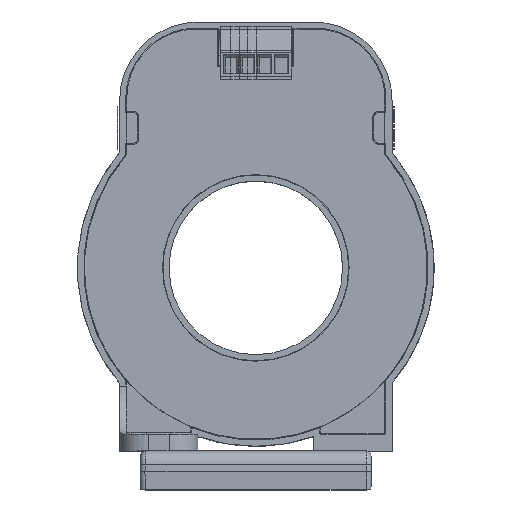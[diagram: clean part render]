
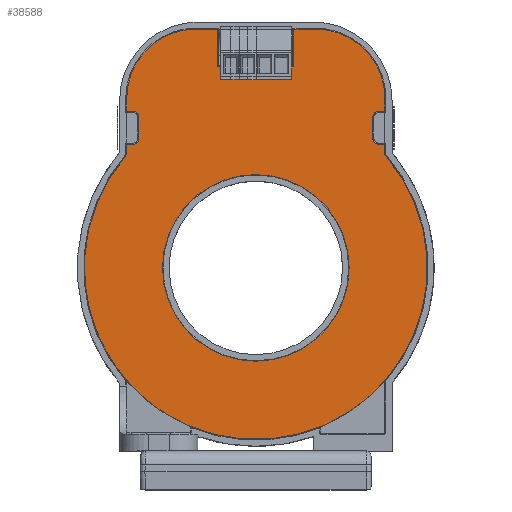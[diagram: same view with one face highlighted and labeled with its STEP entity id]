
A CAD part, top view. The second image highlights one B-rep face of the part: STEP entity #38588.
In plain terms, the highlighted planar face has unit normal (0, 0, 1).
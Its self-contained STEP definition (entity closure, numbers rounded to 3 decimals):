
#187=FACE_BOUND('',#5558,.T.);
#1820=PLANE('',#41157);
#3593=FACE_OUTER_BOUND('',#5557,.T.);
#5557=EDGE_LOOP('',(#33219,#33220,#33221,#33222,#33223,#33224,#33225,#33226,
#33227,#33228,#33229,#33230,#33231,#33232,#33233,#33234,#33235,#33236,#33237,
#33238,#33239,#33240));
#5558=EDGE_LOOP('',(#33241));
#9673=LINE('',#61446,#14037);
#9679=LINE('',#61462,#14043);
#9683=LINE('',#61474,#14047);
#9687=LINE('',#61482,#14051);
#9691=LINE('',#61502,#14055);
#9694=LINE('',#61508,#14058);
#9699=LINE('',#61522,#14063);
#9703=LINE('',#61534,#14067);
#9707=LINE('',#61542,#14071);
#9711=LINE('',#61554,#14075);
#9714=LINE('',#61560,#14078);
#9718=LINE('',#61568,#14082);
#9721=LINE('',#61574,#14085);
#9725=LINE('',#61582,#14089);
#9729=LINE('',#61593,#14093);
#14037=VECTOR('',#49900,10.);
#14043=VECTOR('',#49914,10.);
#14047=VECTOR('',#49926,10.);
#14051=VECTOR('',#49932,10.);
#14055=VECTOR('',#49952,10.);
#14058=VECTOR('',#49957,10.);
#14063=VECTOR('',#49970,10.);
#14067=VECTOR('',#49982,10.);
#14071=VECTOR('',#49988,10.);
#14075=VECTOR('',#50000,10.);
#14078=VECTOR('',#50005,10.);
#14082=VECTOR('',#50011,10.);
#14085=VECTOR('',#50016,10.);
#14089=VECTOR('',#50022,10.);
#14093=VECTOR('',#50034,10.);
#15145=CIRCLE('',#41115,19.35);
#15147=CIRCLE('',#41119,1.225);
#15149=CIRCLE('',#41123,1.225);
#15151=CIRCLE('',#41128,35.6);
#15157=CIRCLE('',#41137,1.225);
#15159=CIRCLE('',#41141,1.225);
#15161=CIRCLE('',#41146,14.398);
#15163=CIRCLE('',#41154,14.398);
#18326=VERTEX_POINT('',#61438);
#18328=VERTEX_POINT('',#61444);
#18329=VERTEX_POINT('',#61445);
#18333=VERTEX_POINT('',#61455);
#18335=VERTEX_POINT('',#61461);
#18337=VERTEX_POINT('',#61467);
#18339=VERTEX_POINT('',#61473);
#18342=VERTEX_POINT('',#61481);
#18344=VERTEX_POINT('',#61487);
#18350=VERTEX_POINT('',#61501);
#18352=VERTEX_POINT('',#61507);
#18355=VERTEX_POINT('',#61515);
#18357=VERTEX_POINT('',#61521);
#18359=VERTEX_POINT('',#61527);
#18361=VERTEX_POINT('',#61533);
#18364=VERTEX_POINT('',#61541);
#18366=VERTEX_POINT('',#61547);
#18368=VERTEX_POINT('',#61553);
#18370=VERTEX_POINT('',#61559);
#18373=VERTEX_POINT('',#61567);
#18375=VERTEX_POINT('',#61573);
#18378=VERTEX_POINT('',#61581);
#18380=VERTEX_POINT('',#61587);
#23387=EDGE_CURVE('',#18326,#18326,#15145,.T.);
#23390=EDGE_CURVE('',#18328,#18329,#9673,.T.);
#23395=EDGE_CURVE('',#18329,#18333,#15147,.T.);
#23398=EDGE_CURVE('',#18333,#18335,#9679,.T.);
#23401=EDGE_CURVE('',#18335,#18337,#15149,.T.);
#23404=EDGE_CURVE('',#18337,#18339,#9683,.T.);
#23408=EDGE_CURVE('',#18339,#18342,#9687,.T.);
#23411=EDGE_CURVE('',#18342,#18344,#15151,.T.);
#23418=EDGE_CURVE('',#18344,#18350,#9691,.T.);
#23421=EDGE_CURVE('',#18350,#18352,#9694,.T.);
#23425=EDGE_CURVE('',#18352,#18355,#15157,.T.);
#23428=EDGE_CURVE('',#18355,#18357,#9699,.T.);
#23431=EDGE_CURVE('',#18357,#18359,#15159,.T.);
#23434=EDGE_CURVE('',#18359,#18361,#9703,.T.);
#23438=EDGE_CURVE('',#18361,#18364,#9707,.T.);
#23441=EDGE_CURVE('',#18364,#18366,#15161,.T.);
#23444=EDGE_CURVE('',#18366,#18368,#9711,.T.);
#23447=EDGE_CURVE('',#18368,#18370,#9714,.T.);
#23451=EDGE_CURVE('',#18370,#18373,#9718,.T.);
#23454=EDGE_CURVE('',#18373,#18375,#9721,.T.);
#23458=EDGE_CURVE('',#18375,#18378,#9725,.T.);
#23461=EDGE_CURVE('',#18378,#18380,#15163,.T.);
#23464=EDGE_CURVE('',#18380,#18328,#9729,.T.);
#33219=ORIENTED_EDGE('',*,*,#23464,.T.);
#33220=ORIENTED_EDGE('',*,*,#23390,.T.);
#33221=ORIENTED_EDGE('',*,*,#23395,.T.);
#33222=ORIENTED_EDGE('',*,*,#23398,.T.);
#33223=ORIENTED_EDGE('',*,*,#23401,.T.);
#33224=ORIENTED_EDGE('',*,*,#23404,.T.);
#33225=ORIENTED_EDGE('',*,*,#23408,.T.);
#33226=ORIENTED_EDGE('',*,*,#23411,.T.);
#33227=ORIENTED_EDGE('',*,*,#23418,.T.);
#33228=ORIENTED_EDGE('',*,*,#23421,.T.);
#33229=ORIENTED_EDGE('',*,*,#23425,.T.);
#33230=ORIENTED_EDGE('',*,*,#23428,.T.);
#33231=ORIENTED_EDGE('',*,*,#23431,.T.);
#33232=ORIENTED_EDGE('',*,*,#23434,.T.);
#33233=ORIENTED_EDGE('',*,*,#23438,.T.);
#33234=ORIENTED_EDGE('',*,*,#23441,.T.);
#33235=ORIENTED_EDGE('',*,*,#23444,.T.);
#33236=ORIENTED_EDGE('',*,*,#23447,.T.);
#33237=ORIENTED_EDGE('',*,*,#23451,.T.);
#33238=ORIENTED_EDGE('',*,*,#23454,.T.);
#33239=ORIENTED_EDGE('',*,*,#23458,.T.);
#33240=ORIENTED_EDGE('',*,*,#23461,.T.);
#33241=ORIENTED_EDGE('',*,*,#23387,.T.);
#38588=ADVANCED_FACE('',(#3593,#187),#1820,.F.);
#41115=AXIS2_PLACEMENT_3D('',#61439,#49893,#49894);
#41119=AXIS2_PLACEMENT_3D('',#61456,#49907,#49908);
#41123=AXIS2_PLACEMENT_3D('',#61468,#49919,#49920);
#41128=AXIS2_PLACEMENT_3D('',#61488,#49937,#49938);
#41137=AXIS2_PLACEMENT_3D('',#61516,#49963,#49964);
#41141=AXIS2_PLACEMENT_3D('',#61528,#49975,#49976);
#41146=AXIS2_PLACEMENT_3D('',#61548,#49993,#49994);
#41154=AXIS2_PLACEMENT_3D('',#61588,#50027,#50028);
#41157=AXIS2_PLACEMENT_3D('',#61595,#50036,#50037);
#49893=DIRECTION('center_axis',(0.,0.,
-1.));
#49894=DIRECTION('ref_axis',(1.,0.,0.));
#49900=DIRECTION('',(1.,0.,0.));
#49907=DIRECTION('center_axis',(0.,0.,
-1.));
#49908=DIRECTION('ref_axis',(0.2,0.98,0.));
#49914=DIRECTION('',(0.,-1.,0.));
#49919=DIRECTION('center_axis',(0.,0.,
-1.));
#49920=DIRECTION('ref_axis',(0.98,-0.2,0.));
#49926=DIRECTION('',(-1.,0.,0.));
#49932=DIRECTION('',(0.,-1.,0.));
#49937=DIRECTION('center_axis',(0.,0.,
1.));
#49938=DIRECTION('ref_axis',(-0.752,-0.659,0.));
#49952=DIRECTION('',(0.,1.,0.));
#49957=DIRECTION('',(-1.,0.,0.));
#49963=DIRECTION('center_axis',(0.,0.,
-1.));
#49964=DIRECTION('ref_axis',(-0.2,-0.98,0.));
#49970=DIRECTION('',(0.,1.,0.));
#49975=DIRECTION('center_axis',(0.,0.,
-1.));
#49976=DIRECTION('ref_axis',(-0.98,0.2,0.));
#49982=DIRECTION('',(1.,0.,0.));
#49988=DIRECTION('',(0.,1.,0.));
#49993=DIRECTION('center_axis',(0.,0.,
1.));
#49994=DIRECTION('ref_axis',(0.,-1.,0.));
#50000=DIRECTION('',(-1.,0.,0.));
#50005=DIRECTION('',(0.,-1.,0.));
#50011=DIRECTION('',(-1.,0.,0.));
#50016=DIRECTION('',(0.,1.,0.));
#50022=DIRECTION('',(-1.,0.,0.));
#50027=DIRECTION('center_axis',(0.,0.,
1.));
#50028=DIRECTION('ref_axis',(1.,0.,0.));
#50034=DIRECTION('',(0.,-1.,0.));
#50036=DIRECTION('center_axis',(0.,0.,
-1.));
#50037=DIRECTION('ref_axis',(-1.,0.,0.));
#61438=CARTESIAN_POINT('',(-19.35,0.,25.2));
#61439=CARTESIAN_POINT('Origin',(0.,0.,
25.2));
#61444=CARTESIAN_POINT('',(-26.786,32.451,25.2));
#61445=CARTESIAN_POINT('',(-25.224,32.451,25.2));
#61446=CARTESIAN_POINT('',(-26.786,32.451,25.2));
#61455=CARTESIAN_POINT('',(-24.268,31.495,25.2));
#61456=CARTESIAN_POINT('Origin',(-25.468,31.25,25.2));
#61461=CARTESIAN_POINT('',(-24.268,26.62,25.2));
#61462=CARTESIAN_POINT('',(-24.268,31.495,25.2));
#61467=CARTESIAN_POINT('',(-25.224,25.664,25.2));
#61468=CARTESIAN_POINT('Origin',(-25.468,26.864,25.2));
#61473=CARTESIAN_POINT('',(-26.786,25.664,25.2));
#61474=CARTESIAN_POINT('',(-25.224,25.664,25.2));
#61481=CARTESIAN_POINT('',(-26.786,23.449,25.2));
#61482=CARTESIAN_POINT('',(-26.786,25.664,25.2));
#61487=CARTESIAN_POINT('',(26.786,23.449,25.2));
#61488=CARTESIAN_POINT('Origin',(0.,0.,
25.2));
#61501=CARTESIAN_POINT('',(26.786,25.664,25.2));
#61502=CARTESIAN_POINT('',(26.786,23.449,25.2));
#61507=CARTESIAN_POINT('',(25.224,25.664,25.2));
#61508=CARTESIAN_POINT('',(26.786,25.664,25.2));
#61515=CARTESIAN_POINT('',(24.268,26.62,25.2));
#61516=CARTESIAN_POINT('Origin',(25.468,26.864,25.2));
#61521=CARTESIAN_POINT('',(24.268,31.495,25.2));
#61522=CARTESIAN_POINT('',(24.268,26.62,25.2));
#61527=CARTESIAN_POINT('',(25.224,32.451,25.2));
#61528=CARTESIAN_POINT('Origin',(25.468,31.25,25.2));
#61533=CARTESIAN_POINT('',(26.786,32.451,25.2));
#61534=CARTESIAN_POINT('',(25.224,32.451,25.2));
#61541=CARTESIAN_POINT('',(26.786,35.138,25.2));
#61542=CARTESIAN_POINT('',(26.786,32.451,25.2));
#61547=CARTESIAN_POINT('',(12.388,49.536,25.2));
#61548=CARTESIAN_POINT('Origin',(12.388,35.138,25.2));
#61553=CARTESIAN_POINT('',(7.9,49.536,25.2));
#61554=CARTESIAN_POINT('',(12.388,49.536,25.2));
#61559=CARTESIAN_POINT('',(7.9,41.741,25.2));
#61560=CARTESIAN_POINT('',(7.9,49.536,25.2));
#61567=CARTESIAN_POINT('',(-7.9,41.741,25.2));
#61568=CARTESIAN_POINT('',(7.9,41.741,25.2));
#61573=CARTESIAN_POINT('',(-7.9,49.536,25.2));
#61574=CARTESIAN_POINT('',(-7.9,41.741,25.2));
#61581=CARTESIAN_POINT('',(-12.388,49.536,25.2));
#61582=CARTESIAN_POINT('',(-7.9,49.536,25.2));
#61587=CARTESIAN_POINT('',(-26.786,35.138,25.2));
#61588=CARTESIAN_POINT('Origin',(-12.388,35.138,25.2));
#61593=CARTESIAN_POINT('',(-26.786,35.138,25.2));
#61595=CARTESIAN_POINT('Origin',(0.,12.214,
25.2));
